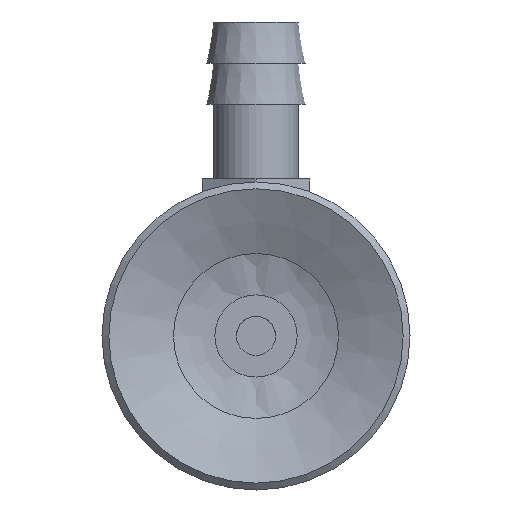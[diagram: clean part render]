
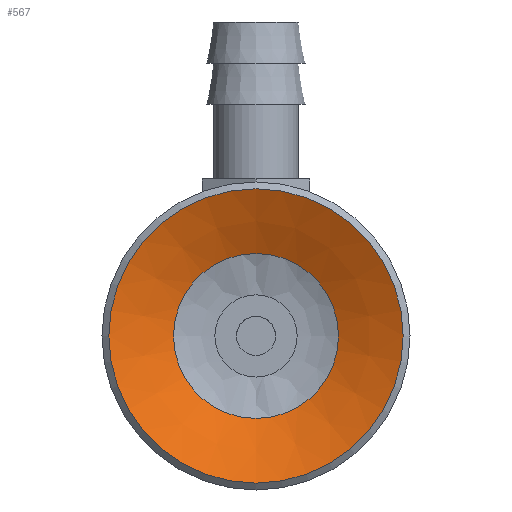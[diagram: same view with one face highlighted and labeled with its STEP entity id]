
A CAD part, front view. The second image highlights one B-rep face of the part: STEP entity #567.
In plain terms, the highlighted conical face has half-angle 65.056 degrees and reference radius 3.2 mm.
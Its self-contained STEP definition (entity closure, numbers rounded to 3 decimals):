
#567=ADVANCED_FACE('',(#865,#866),#867,.F.);
#865=FACE_BOUND('',#1234,.T.);
#866=FACE_OUTER_BOUND('',#1235,.T.);
#867=CONICAL_SURFACE('',#1236,3.2,1.135);
#1234=EDGE_LOOP('',(#2037));
#1235=EDGE_LOOP('',(#2038));
#1236=AXIS2_PLACEMENT_3D('',#2039,#2040,#2041);
#2037=ORIENTED_EDGE('',*,*,#2374,.T.);
#2038=ORIENTED_EDGE('',*,*,#2375,.T.);
#2039=CARTESIAN_POINT('',(0.0,7.896,0.0));
#2040=DIRECTION('',(-0.0,-1.0,0.));
#2041=DIRECTION('',(0.0,0.,-1.0));
#2374=EDGE_CURVE('',#2755,#2755,#2756,.T.);
#2375=EDGE_CURVE('',#2757,#2757,#2758,.T.);
#2755=VERTEX_POINT('',#3587);
#2756=CIRCLE('',#3588,4.203);
#2757=VERTEX_POINT('',#3589);
#2758=CIRCLE('',#3590,7.5);
#3587=CARTESIAN_POINT('',(0.0,7.43,-4.203));
#3588=AXIS2_PLACEMENT_3D('',#3966,#3967,#3968);
#3589=CARTESIAN_POINT('',(0.0,5.896,-7.5));
#3590=AXIS2_PLACEMENT_3D('',#3969,#3970,#3971);
#3966=CARTESIAN_POINT('',(0.0,7.43,0.0));
#3967=DIRECTION('',(0.0,1.0,0.));
#3968=DIRECTION('',(0.0,0.,-1.0));
#3969=CARTESIAN_POINT('',(0.0,5.896,0.0));
#3970=DIRECTION('',(0.0,-1.0,0.));
#3971=DIRECTION('',(0.0,0.,-1.0));
